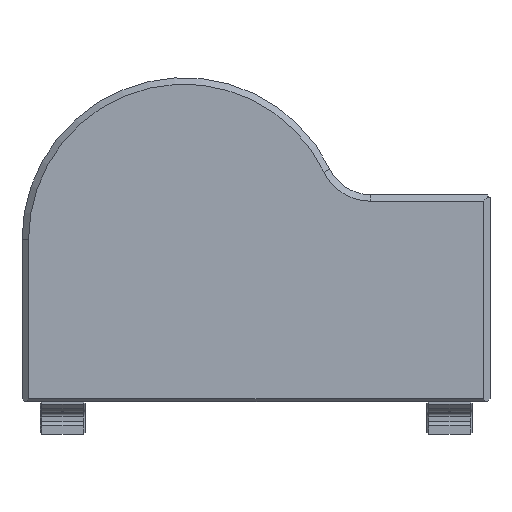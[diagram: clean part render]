
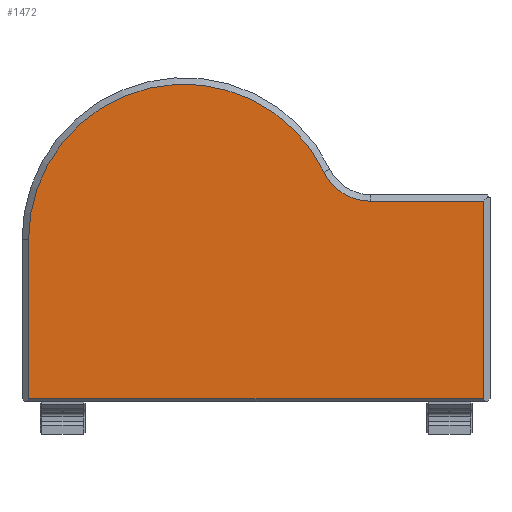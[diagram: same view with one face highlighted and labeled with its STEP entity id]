
A CAD part, front view. The second image highlights one B-rep face of the part: STEP entity #1472.
In plain terms, the highlighted planar face has unit normal (0, -1, 0).
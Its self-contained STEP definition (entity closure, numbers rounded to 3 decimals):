
#91 = DIRECTION ( 'NONE',  ( 0., 0., 1. ) ) ;
#131 = VERTEX_POINT ( 'NONE', #2535 ) ;
#292 = EDGE_CURVE ( 'NONE', #5688, #4856, #3336, .T. ) ;
#376 = DIRECTION ( 'NONE',  ( 1., 0., 0. ) ) ;
#404 = CIRCLE ( 'NONE', #5732, 11.449 ) ;
#450 = VECTOR ( 'NONE', #376, 1000. ) ;
#537 = EDGE_LOOP ( 'NONE', ( #1596, #2977, #3220, #764, #5409, #5264 ) ) ;
#715 = EDGE_CURVE ( 'NONE', #4856, #131, #5372, .T. ) ;
#764 = ORIENTED_EDGE ( 'NONE', *, *, #292, .T. ) ;
#860 = CARTESIAN_POINT ( 'NONE',  ( 68., -2.2, -35.4 ) ) ;
#907 = DIRECTION ( 'NONE',  ( -1., 0., 0. ) ) ;
#928 = VECTOR ( 'NONE', #907, 1000. ) ;
#962 = CARTESIAN_POINT ( 'NONE',  ( -34.551, -2.2, -35.4 ) ) ;
#986 = LINE ( 'NONE', #6032, #6156 ) ;
#1326 = DIRECTION ( 'NONE',  ( 0., 0., -1. ) ) ;
#1367 = DIRECTION ( 'NONE',  ( 0., 0., -1. ) ) ;
#1470 = DIRECTION ( 'NONE',  ( 0., -1., 0. ) ) ;
#1472 = ADVANCED_FACE ( 'NONE', ( #1613 ), #4691, .T. ) ;
#1596 = ORIENTED_EDGE ( 'NONE', *, *, #2096, .T. ) ;
#1613 = FACE_OUTER_BOUND ( 'NONE', #537, .T. ) ;
#1914 = DIRECTION ( 'NONE',  ( 0., 1., 0. ) ) ;
#2096 = EDGE_CURVE ( 'NONE', #3186, #2524, #5279, .T. ) ;
#2524 = VERTEX_POINT ( 'NONE', #2859 ) ;
#2535 = CARTESIAN_POINT ( 'NONE',  ( 66.551, -2.2, -35.4 ) ) ;
#2744 = VECTOR ( 'NONE', #1326, 1000. ) ;
#2859 = CARTESIAN_POINT ( 'NONE',  ( 41.425, -2.2, 8.551 ) ) ;
#2933 = CARTESIAN_POINT ( 'NONE',  ( -34.551, -2.2, 0. ) ) ;
#2977 = ORIENTED_EDGE ( 'NONE', *, *, #5659, .T. ) ;
#3186 = VERTEX_POINT ( 'NONE', #3944 ) ;
#3220 = ORIENTED_EDGE ( 'NONE', *, *, #4843, .T. ) ;
#3336 = LINE ( 'NONE', #3907, #2744 ) ;
#3458 = CARTESIAN_POINT ( 'NONE',  ( 41.425, -2.2, 20. ) ) ;
#3887 = DIRECTION ( 'NONE',  ( 0., 0., -1. ) ) ;
#3907 = CARTESIAN_POINT ( 'NONE',  ( -34.551, -2.2, 36. ) ) ;
#3944 = CARTESIAN_POINT ( 'NONE',  ( 66.551, -2.2, 8.551 ) ) ;
#4155 = VERTEX_POINT ( 'NONE', #5180 ) ;
#4456 = CARTESIAN_POINT ( 'NONE',  ( 0., -2.2, 0. ) ) ;
#4691 = PLANE ( 'NONE',  #5440 ) ;
#4843 = EDGE_CURVE ( 'NONE', #4155, #5688, #6379, .T. ) ;
#4856 = VERTEX_POINT ( 'NONE', #962 ) ;
#5147 = DIRECTION ( 'NONE',  ( 0., -1., 0. ) ) ;
#5180 = CARTESIAN_POINT ( 'NONE',  ( 31.115, -2.2, 15.022 ) ) ;
#5264 = ORIENTED_EDGE ( 'NONE', *, *, #5468, .T. ) ;
#5279 = LINE ( 'NONE', #5878, #928 ) ;
#5372 = LINE ( 'NONE', #860, #450 ) ;
#5409 = ORIENTED_EDGE ( 'NONE', *, *, #715, .T. ) ;
#5440 = AXIS2_PLACEMENT_3D ( 'NONE', #6181, #5147, #6117 ) ;
#5468 = EDGE_CURVE ( 'NONE', #131, #3186, #986, .T. ) ;
#5659 = EDGE_CURVE ( 'NONE', #2524, #4155, #404, .T. ) ;
#5688 = VERTEX_POINT ( 'NONE', #2933 ) ;
#5732 = AXIS2_PLACEMENT_3D ( 'NONE', #3458, #1914, #3887 ) ;
#5860 = AXIS2_PLACEMENT_3D ( 'NONE', #4456, #1470, #1367 ) ;
#5878 = CARTESIAN_POINT ( 'NONE',  ( 0., -2.2, 8.551 ) ) ;
#6032 = CARTESIAN_POINT ( 'NONE',  ( 66.551, -2.2, 36. ) ) ;
#6117 = DIRECTION ( 'NONE',  ( 0., 0., -1. ) ) ;
#6156 = VECTOR ( 'NONE', #91, 1000. ) ;
#6181 = CARTESIAN_POINT ( 'NONE',  ( 0., -2.2, 36. ) ) ;
#6379 = CIRCLE ( 'NONE', #5860, 34.551 ) ;
